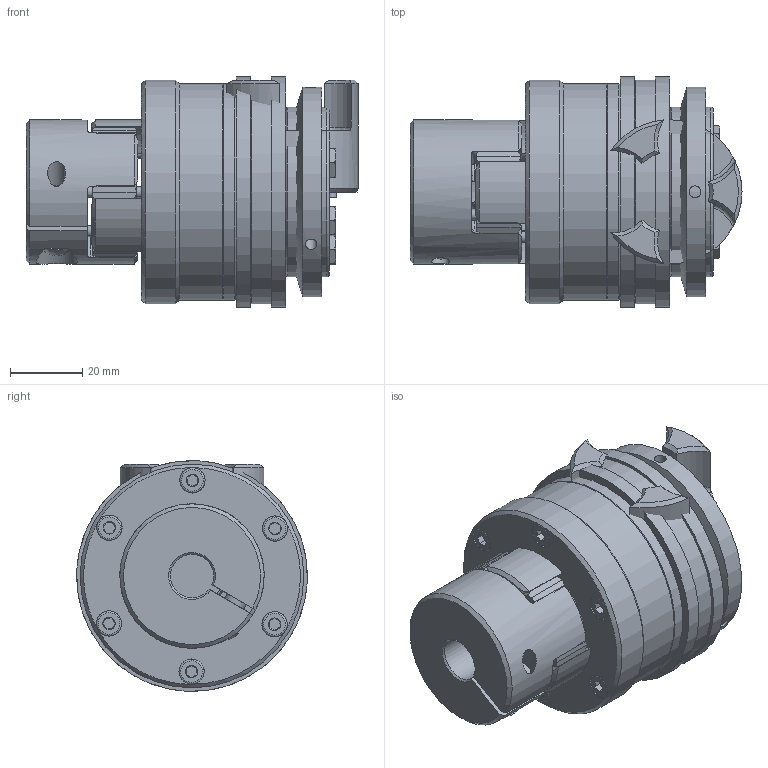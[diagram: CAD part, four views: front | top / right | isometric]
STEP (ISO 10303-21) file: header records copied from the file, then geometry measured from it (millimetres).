
FILE_DESCRIPTION( ( 'Unknown' ), '1' );
FILE_NAME( 'C:/Dokumente und Einstellungen/Sven/Desktop/hp kbk/E-KA/KBK EKA-19-88.stp', 'Unknown', ( 'Unknown' ), ( 'Unknown' ), 'XStep 1.0', 'Unknown', ' ' );
FILE_SCHEMA( ( 'automotive_design' ) );
Length unit declared in the file: millimetre
Products named in the file (17): Assem1; Assem2; ball_bearing_-_6005_0_01_1; ball_bearing_-_6005_0_02_0; ball_bearing_-_6005_0_03_0; Stellring 30_0; Druckring 30_0; Flansch L30_0; a_25_0; Elastomerflansch 19_0; Zahnkranz_19_0; ISO EN DIN 4762_M4x16_0; schraube_iso_7380-m6x16-12_9_0; L-A-30 Grundkörper_0; Druckring L-A-30_0; din_en_24017_m5x16_0; KBE 2 C - 19_Nabe_0
Bounding box: 92 x 64 x 64 mm (x, y, z)
Volume: 292531.8 mm3; surface area: 153195.7 mm2
Topology: 43 solids, 43 shells, 994 faces, 2186 edges, 1379 vertices
Faces by surface type: plane 381, cylinder 290, cone 253, torus 68, bspline 2
Full cylindrical faces by diameter (mm): 2 x4, 3 x12, 3.242 x18, 3.5 x7, 4 x14, 4.134 x12, 4.2 x12, 5 x9, 5.5 x12, 6 x2, 6.5 x2, 6.88 x7, 7 x19, 8 x2, 12 x2, 18 x4, 23.9 x2, 24.7 x2, 25 x7, 32 x6, 34 x2, 38 x4, 40 x2, 40.3 x6, 46 x2, 47 x7, 52 x2, 58 x2, 60 x4, 62 x2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
Entity records: 10814 total; most frequent: CARTESIAN_POINT 2516, DIRECTION 1767, ORIENTED_EDGE 1394, AXIS2_PLACEMENT_3D 799, EDGE_CURVE 697, EDGE_LOOP 576, VERTEX_POINT 508, FACE_OUTER_BOUND 462
